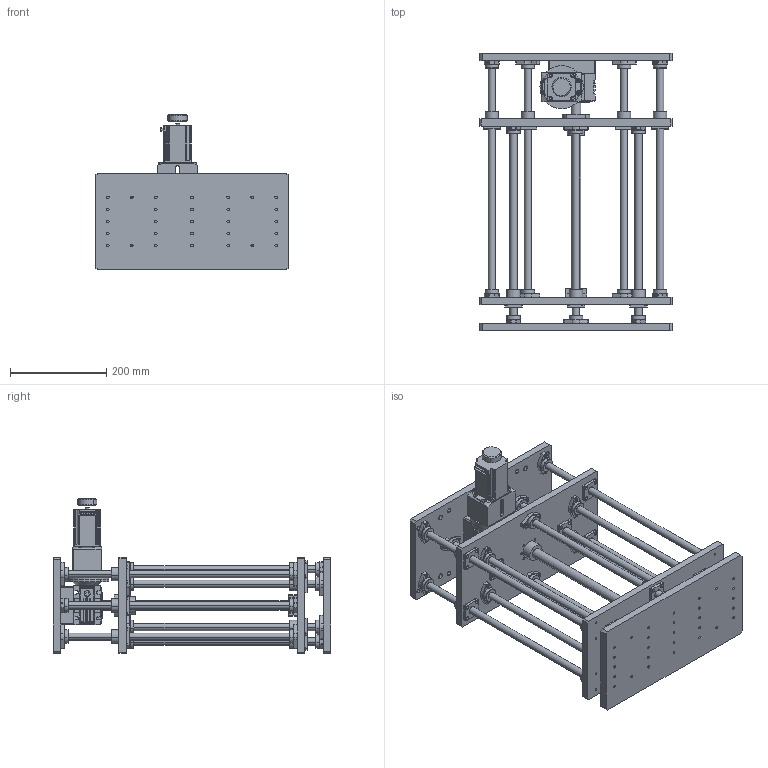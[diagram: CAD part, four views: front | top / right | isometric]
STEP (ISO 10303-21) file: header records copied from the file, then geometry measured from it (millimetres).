
FILE_DESCRIPTION (( 'STEP AP214' ), '1' );
FILE_NAME ('PS20-300.STEP', '2022-09-24T09:12:48', ( '' ), ( '' ), 'SwSTEP 2.0', 'SolidWorks 2017', '' );
FILE_SCHEMA (( 'AUTOMOTIVE_DESIGN' ));
Length unit declared in the file: millimetre
Products named in the file (4): 奻啣; 菁啣; PS20-300; 遺殤20-300
Assembly tree (3 placements, depth 2):
  PS20-300
    遺殤20-300
    奻啣
    菁啣
Bounding box: 400 x 577 x 322.5 mm (x, y, z)
Volume: 2374910.6 mm3; surface area: 1277162.6 mm2
Topology: 2 solids, 78 shells, 1820 faces, 5216 edges, 3478 vertices
Faces by surface type: plane 790, cylinder 751, cone 277, bspline 2
Entity records: 77571 total; most frequent: CARTESIAN_POINT 28599, DIRECTION 10261, ORIENTED_EDGE 8897, EDGE_CURVE 5214, AXIS2_PLACEMENT_3D 3622, VERTEX_POINT 3477, VECTOR 3017, LINE 3017
